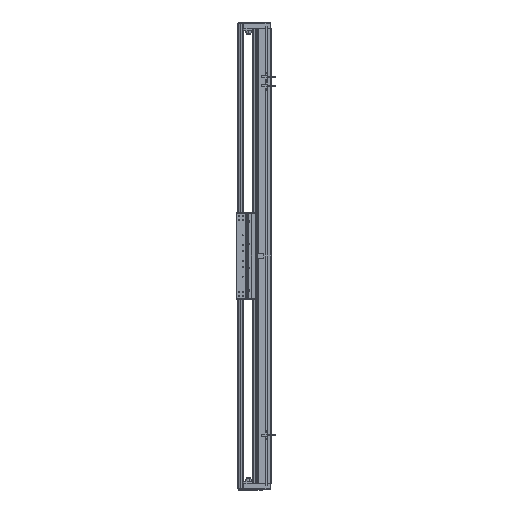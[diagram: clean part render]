
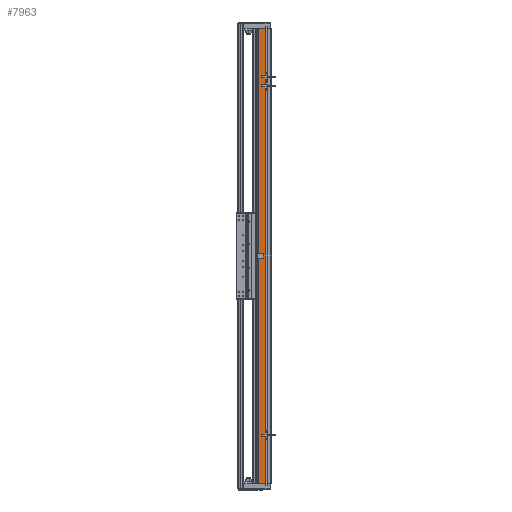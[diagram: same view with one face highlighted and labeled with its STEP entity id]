
A CAD part, left-side view. The second image highlights one B-rep face of the part: STEP entity #7963.
In plain terms, the highlighted planar face has unit normal (-1, 0, 0).
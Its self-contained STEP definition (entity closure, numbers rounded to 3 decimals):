
#995 = VERTEX_POINT ( 'NONE', #136087 ) ;
#1175 = EDGE_CURVE ( 'NONE', #100498, #995, #118150, .T. ) ;
#3176 = EDGE_LOOP ( 'NONE', ( #131741, #65472, #30082, #121610 ) ) ;
#7920 = VERTEX_POINT ( 'NONE', #88431 ) ;
#7963 = ADVANCED_FACE ( 'NONE', ( #89167 ), #42173, .F. ) ;
#9993 = CARTESIAN_POINT ( 'NONE',  ( -97.5, 36.95, 660. ) ) ;
#10049 = CARTESIAN_POINT ( 'NONE',  ( -97.5, 36.95, 660. ) ) ;
#15905 = DIRECTION ( 'NONE',  ( 0., -1., 0. ) ) ;
#22844 = EDGE_CURVE ( 'NONE', #7920, #100498, #133302, .T. ) ;
#27848 = LINE ( 'NONE', #39800, #80575 ) ;
#30082 = ORIENTED_EDGE ( 'NONE', *, *, #22844, .F. ) ;
#39800 = CARTESIAN_POINT ( 'NONE',  ( -97.5, 36.95, -660. ) ) ;
#42173 = PLANE ( 'NONE',  #62684 ) ;
#43457 = VECTOR ( 'NONE', #56153, 1000. ) ;
#45841 = CARTESIAN_POINT ( 'NONE',  ( -97.5, 14.45, 660. ) ) ;
#47148 = LINE ( 'NONE', #68802, #43457 ) ;
#56153 = DIRECTION ( 'NONE',  ( 0., 0., -1. ) ) ;
#56767 = EDGE_CURVE ( 'NONE', #122123, #995, #27848, .T. ) ;
#61389 = CARTESIAN_POINT ( 'NONE',  ( -97.5, 14.45, 660. ) ) ;
#62684 = AXIS2_PLACEMENT_3D ( 'NONE', #9993, #133970, #101850 ) ;
#65153 = VECTOR ( 'NONE', #117408, 1000. ) ;
#65472 = ORIENTED_EDGE ( 'NONE', *, *, #1175, .F. ) ;
#68802 = CARTESIAN_POINT ( 'NONE',  ( -97.5, 36.95, 660. ) ) ;
#71563 = EDGE_CURVE ( 'NONE', #7920, #122123, #47148, .T. ) ;
#80575 = VECTOR ( 'NONE', #15905, 1000. ) ;
#83425 = CARTESIAN_POINT ( 'NONE',  ( -97.5, 36.95, -660. ) ) ;
#88431 = CARTESIAN_POINT ( 'NONE',  ( -97.5, 36.95, 660. ) ) ;
#89167 = FACE_OUTER_BOUND ( 'NONE', #3176, .T. ) ;
#100498 = VERTEX_POINT ( 'NONE', #45841 ) ;
#101850 = DIRECTION ( 'NONE',  ( 0., 1., 0. ) ) ;
#117408 = DIRECTION ( 'NONE',  ( 0., 0., -1. ) ) ;
#118150 = LINE ( 'NONE', #61389, #65153 ) ;
#121610 = ORIENTED_EDGE ( 'NONE', *, *, #71563, .T. ) ;
#122123 = VERTEX_POINT ( 'NONE', #83425 ) ;
#123441 = VECTOR ( 'NONE', #147487, 1000. ) ;
#131741 = ORIENTED_EDGE ( 'NONE', *, *, #56767, .T. ) ;
#133302 = LINE ( 'NONE', #10049, #123441 ) ;
#133970 = DIRECTION ( 'NONE',  ( 1., 0., 0. ) ) ;
#136087 = CARTESIAN_POINT ( 'NONE',  ( -97.5, 14.45, -660. ) ) ;
#147487 = DIRECTION ( 'NONE',  ( 0., -1., 0. ) ) ;
